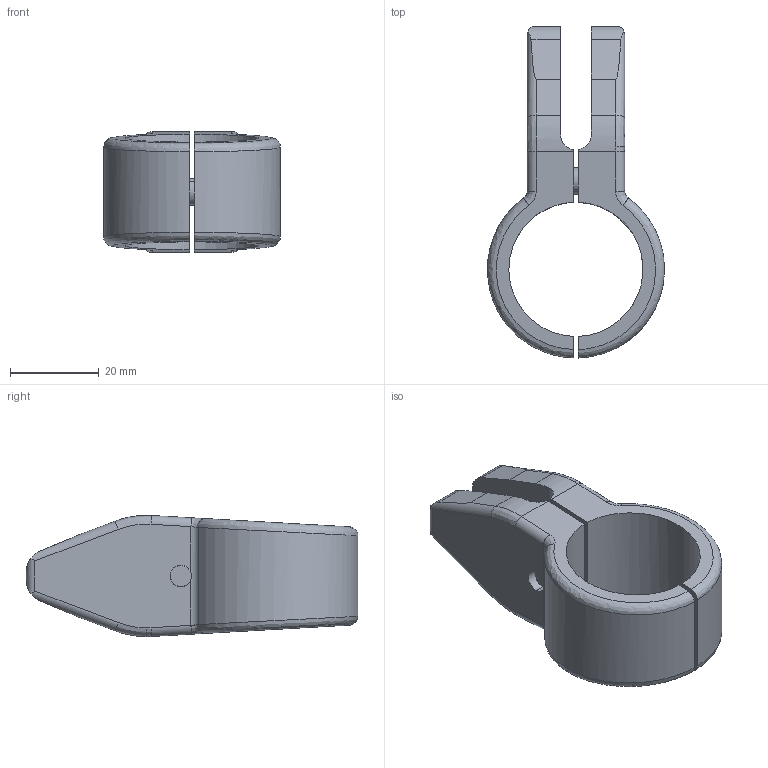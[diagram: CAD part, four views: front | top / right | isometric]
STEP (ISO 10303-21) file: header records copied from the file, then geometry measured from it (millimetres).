
FILE_DESCRIPTION (( 'STEP AP214' ), '1' );
FILE_NAME ('31000410052.STEP', '2024-09-02T09:52:12', ( '' ), ( '' ), 'SwSTEP 2.0', 'SolidWorks 2016', '' );
FILE_SCHEMA (( 'AUTOMOTIVE_DESIGN' ));
Length unit declared in the file: millimetre
Products named in the file (4): 31000410052; 1692_Schale 1; 1692_Schale 2; DIN 6912  (Regelgewinde) M6 x 16
Assembly tree (3 placements, depth 2):
  31000410052
    1692_Schale 1
    1692_Schale 2
    DIN 6912  (Regelgewinde) M6 x 16
Bounding box: 39.97 x 74.99 x 27.4 mm (x, y, z)
Volume: 25175.2 mm3; surface area: 11400.6 mm2
Topology: 3 solids, 3 shells, 94 faces, 256 edges, 167 vertices
Faces by surface type: cylinder 43, plane 31, bspline 14, cone 6
Entity records: 6445 total; most frequent: CARTESIAN_POINT 3059, ORIENTED_EDGE 508, DIRECTION 406, EDGE_CURVE 254, VERTEX_POINT 167, AXIS2_PLACEMENT_3D 151, VECTOR 104, LINE 104
